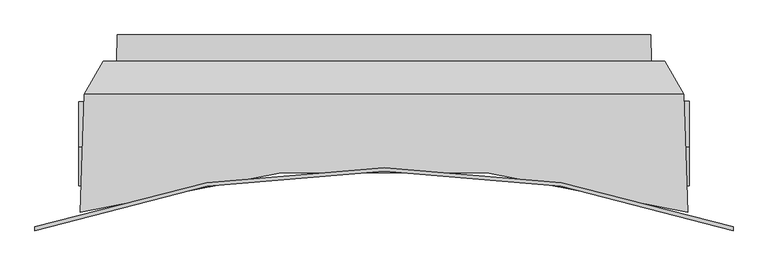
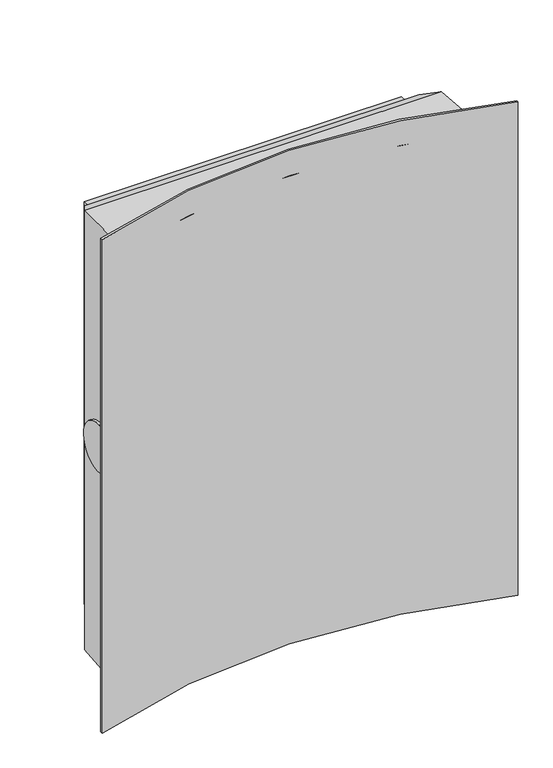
"""IFC4 building model written with IfcOpenShell, lengths in millimetres: proxy geometry, SU.900x1200ManwayRiserAdapter.3500."""

from ifc_helpers import new_model, si_unit, frame, origin, place, context, project, spatial, polyline, circle_curve, ellipse_curve, source, transform, mapped, element, save
from ifc_brep_helpers import plane_surface, cylinder_surface, revolved_surface, advanced_brep


def generic_models_27e32457(model_context):
    return source(origin(), model_context, "Body", "AdvancedBrep", [
        advanced_brep(
        [(498.8644366, -174.4226099, -69.7774514), (506.0, -174.4226099, -69.7774514), (506.0, -185.5773901, 69.7774514), (499.2539702, -185.5773901, 69.7774514), (-506.0, -174.4226099, -69.7774514), (-498.8644366, -174.4226099, -69.7774514), (-499.2539702, -185.5773901, 69.7774514), (-506.0, -185.5773901, 69.7774514), (-496.206021, -98.2955463, -646.206021), (-503.0285785, -293.6680303, -653.0285785), (-503.0285785, -293.6680303, 653.0285785), (-496.206021, -98.2955463, 646.206021), (-496.6147495, -110.0, 0.0), (503.0285785, -293.6680303, -653.0285785), (496.206021, -98.2955463, -646.206021), (496.206021, -98.2955463, 646.206021), (503.0285785, -293.6680303, 653.0285785), (496.6147495, -110.0, 0.0), (578.2496957, -318.1087275, -725.0), (-578.2496957, -318.1087275, -725.0), (-578.2496957, -318.1087275, 725.0), (578.2496957, -318.1087275, 725.0), (-464.8584727, -44.0, -614.8584727), (464.8584727, -44.0, -614.8584727), (464.8584727, -44.0, 614.8584727), (-464.8584727, -44.0, 614.8584727), (443.0401711, -44.0, -593.0401711), (443.0401711, -44.0, 593.0401711), (-443.0401711, -44.0, 593.0401711), (-443.0401711, -44.0, -593.0401711), (441.5036573, 0.0, 591.5036573), (441.5036573, 0.0, -591.5036573), (-441.5036573, 0.0, -591.5036573), (-441.5036573, 0.0, 591.5036573), (578.2496957, -324.4671382, -725.0), (578.2496957, -324.4671382, 725.0), (-578.2496957, -324.4671382, 725.0), (-578.2496957, -324.4671382, -725.0)],
        [
            (0, 1),
            (1, 2, circle_curve(frame((506.0, -180.0, 0.0), z_axis=(-1.0, 0.0, 0.0), x_axis=(0.0, 0.07967700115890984, -0.99682073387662)), 70.0)),
            (2, 3),
            (3, 0, ellipse_curve(frame((499.0592034, -180.0, 0.0), z_axis=(0.9993908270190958, 0.03489949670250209, 0.0), x_axis=(0.03489949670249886, -0.9993908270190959, 0.0)), 70.0426681, 70.0)),
            (4, 5),
            (5, 6, ellipse_curve(frame((-499.0592034, -180.0, 0.0), z_axis=(-0.9993908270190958, 0.03489949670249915, 0.0), x_axis=(0.03489949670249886, 0.9993908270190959, 0.0)), 70.0426681, 70.0)),
            (6, 7),
            (7, 4, circle_curve(frame((-506.0, -180.0, 0.0), z_axis=(1.0, 0.0, 0.0), x_axis=(0.0, 0.07967700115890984, -0.99682073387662)), 70.0)),
            (8, 9),
            (9, 10),
            (10, 11),
            (11, 8),
            (5, 12, ellipse_curve(frame((-499.0592034, -180.0, 0.0), z_axis=(0.9993908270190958, -0.03489949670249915, 0.0), x_axis=(0.03489949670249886, 0.9993908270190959, 0.0)), 70.0426681, 70.0)),
            (12, 6, ellipse_curve(frame((-499.0592034, -180.0, 0.0), z_axis=(0.9993908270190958, -0.03489949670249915, 0.0), x_axis=(0.03489949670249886, 0.9993908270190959, 0.0)), 70.0426681, 70.0)),
            (4, 7, circle_curve(frame((-506.0, -180.0, 0.0), z_axis=(1.0, 0.0, 0.0), x_axis=(0.0, 0.07967700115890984, -0.99682073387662)), 70.0)),
            (13, 14),
            (14, 15),
            (15, 16),
            (16, 13),
            (17, 0, ellipse_curve(frame((499.0592034, -180.0, 0.0), z_axis=(-0.9993908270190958, -0.03489949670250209, 0.0), x_axis=(0.03489949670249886, -0.9993908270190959, 0.0)), 70.0426681, 70.0)),
            (3, 17, ellipse_curve(frame((499.0592034, -180.0, 0.0), z_axis=(-0.9993908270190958, -0.03489949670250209, 0.0), x_axis=(0.03489949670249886, -0.9993908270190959, 0.0)), 70.0426681, 70.0)),
            (2, 1, circle_curve(frame((506.0, -180.0, 0.0), z_axis=(-1.0, 0.0, 0.0), x_axis=(0.0, 0.07967700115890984, -0.99682073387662)), 70.0)),
            (13, 9, ellipse_curve(frame((0.0, -1969.8130865, -711.5608536), z_axis=(0.0, -0.03489949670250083, 0.9993908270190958), x_axis=(0.0, 0.9993908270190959, 0.03489949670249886)), 1751.0667025, 1750.0)),
            (8, 14),
            (15, 11),
            (10, 16, ellipse_curve(frame((0.0, -1969.8130865, 711.5608536), z_axis=(0.0, -0.034899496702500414, -0.9993908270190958), x_axis=(0.0, -0.9993908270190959, 0.03489949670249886)), 1751.0667025, 1750.0)),
            (18, 19, circle_curve(frame((0.0, -1969.8130865, -725.0), z_axis=(0.0, 0.0, 1.0), x_axis=(0.3304283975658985, 0.9438310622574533, 0.0)), 1750.0)),
            (19, 20),
            (20, 21, circle_curve(frame((0.0, -1969.8130865, 725.0), z_axis=(0.0, 0.0, -1.0), x_axis=(0.3304283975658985, 0.9438310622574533, 0.0)), 1750.0)),
            (21, 18),
            (8, 22),
            (22, 23),
            (23, 14),
            (23, 24),
            (24, 15),
            (22, 25),
            (25, 24),
            (26, 27),
            (27, 28),
            (28, 29),
            (29, 26),
            (25, 11),
            (30, 31),
            (31, 32),
            (32, 33),
            (33, 30),
            (30, 27),
            (26, 31),
            (29, 32),
            (33, 28),
            (34, 35),
            (35, 36, circle_curve(frame((0.0, -1969.8130865, 725.0), z_axis=(0.0, 0.0, 1.0), x_axis=(-0.3315651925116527, -0.9434323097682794, 0.0)), 1744.0)),
            (36, 37),
            (37, 34, circle_curve(frame((0.0, -1969.8130865, -725.0), z_axis=(0.0, 0.0, -1.0), x_axis=(-0.3315651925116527, -0.9434323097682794, 0.0)), 1744.0)),
            (34, 18),
            (21, 35),
            (19, 37),
            (36, 20),
        ],
        [
            cylinder_surface(frame((0.0, -180.0, 0.0), z_axis=(1.0000000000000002, 0.0, 0.0), x_axis=(0.0, 0.07967700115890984, -0.99682073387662)), 70.0),
            plane_surface(frame((-496.206021, -98.2955463, -541.5), z_axis=(-0.9993908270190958, 0.03489949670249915, 0.0), x_axis=(-0.03489949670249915, -0.9993908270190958, 0.0))),
            plane_surface(frame((496.206021, -98.2955463, 541.5), z_axis=(0.9993908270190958, 0.03489949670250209, 0.0), x_axis=(0.03489949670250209, -0.9993908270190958, 0.0))),
            plane_surface(frame((506.0, -205.0, 0.0), z_axis=(1.0, 0.0, 0.0), x_axis=(0.0, 0.0, -1.0))),
            plane_surface(frame((-506.0, -205.0, 0.0), z_axis=(-1.0, 0.0, 0.0), x_axis=(0.0, 0.0, -1.0))),
            plane_surface(frame((391.5, -98.2955463, -646.206021), z_axis=(0.0, 0.03489949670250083, -0.9993908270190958), x_axis=(0.0, -0.9993908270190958, -0.03489949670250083))),
            plane_surface(frame((-391.5, -98.2955463, 646.206021), z_axis=(0.0, 0.034899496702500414, 0.9993908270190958), x_axis=(0.0, -0.9993908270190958, 0.034899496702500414))),
            cylinder_surface(frame((0.0, -1969.8130865, 0.0), z_axis=(0.0, 0.0, 1.0000000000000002), x_axis=(0.3304283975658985, 0.9438310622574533, 0.0)), 1750.0),
            plane_surface(frame((391.5, -44.0, -614.8584727), z_axis=(0.0, 0.49999999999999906, -0.8660254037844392), x_axis=(0.0, -0.8660254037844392, -0.49999999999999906))),
            plane_surface(frame((464.8584727, -44.0, 541.5), z_axis=(0.8660254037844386, 0.5000000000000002, 0.0), x_axis=(0.5000000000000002, -0.8660254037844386, 0.0))),
            plane_surface(frame((391.5, -44.0, -593.0401711), z_axis=(0.0, 1.0, 0.0), x_axis=(0.0, 0.0, -1.0))),
            plane_surface(frame((-391.5, -44.0, 614.8584727), z_axis=(0.0, 0.4999999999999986, 0.8660254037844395), x_axis=(0.0, -0.8660254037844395, 0.4999999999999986))),
            plane_surface(frame((-464.8584727, -44.0, -541.5), z_axis=(-0.86602540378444, 0.49999999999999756, 0.0), x_axis=(-0.49999999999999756, -0.86602540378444, 0.0))),
            plane_surface(frame((391.5, 0.0, -585.5), z_axis=(0.0, 1.0, 0.0), x_axis=(0.0, 0.0, -1.0))),
            plane_surface(frame((441.5036573, 0.0, 541.5), z_axis=(0.999390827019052, 0.03489949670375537, 0.0), x_axis=(0.03489949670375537, -0.999390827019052, 0.0))),
            plane_surface(frame((391.5, 0.0, -591.5036573), z_axis=(0.0, 0.03489949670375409, -0.999390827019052), x_axis=(0.0, -0.999390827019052, -0.03489949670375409))),
            plane_surface(frame((-391.5, 0.0, 591.5036573), z_axis=(0.0, 0.034899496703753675, 0.999390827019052), x_axis=(0.0, -0.999390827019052, 0.034899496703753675))),
            plane_surface(frame((-441.5036573, 0.0, -541.5), z_axis=(-0.9993908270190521, 0.03489949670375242, 0.0), x_axis=(-0.03489949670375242, -0.9993908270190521, 0.0))),
            revolved_surface(polyline([(-578.2496957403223, -3615.1590347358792, 725.0), (-578.2496957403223, -3615.1590347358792, -725.0)]), (0.0, -1969.8130865, 0.0), (0.0, 0.0, 1.0)),
            plane_surface(frame((578.2496957, -324.4671382, 0.0), z_axis=(1.0, 0.0, 0.0), x_axis=(0.0, 1.0, 0.0))),
            plane_surface(frame((-578.2496957, -318.1087275, 0.0), z_axis=(-1.0, 0.0, 0.0), x_axis=(0.0, -1.0, 0.0))),
            plane_surface(frame((0.0, -272.1401123, 725.0), z_axis=(0.0, 0.0, 1.0), x_axis=(1.0, 0.0, 0.0))),
            plane_surface(frame((0.0, -272.1401123, -725.0), z_axis=(0.0, 0.0, -1.0), x_axis=(1.0, 0.0, 0.0))),
        ],
        [
            (0, [[1, 2, 3, 4]]),
            (0, [[5, 6, 7, 8]]),
            (1, [[9, 10, 11, 12], [13, 14, -6]]),
            (0, [[-5, 15, -7, -14, -13]]),
            (2, [[16, 17, 18, 19], [20, -4, 21]]),
            (0, [[-1, -20, -21, -3, 22]]),
            (3, [[-2, -22]]),
            (4, [[-15, -8]]),
            (5, [[-16, 23, -9, 24]]),
            (6, [[-18, 25, -11, 26]]),
            (7, [[27, 28, 29, 30], [-23, -19, -26, -10]]),
            (8, [[-24, 31, 32, 33]]),
            (9, [[-17, -33, 34, 35]]),
            (10, [[-32, 36, 37, -34], [38, 39, 40, 41]]),
            (11, [[-25, -35, -37, 42]]),
            (12, [[-12, -42, -36, -31]]),
            (13, [[43, 44, 45, 46]]),
            (14, [[-43, 47, -38, 48]]),
            (15, [[-48, -41, 49, -44]]),
            (16, [[-46, 50, -39, -47]]),
            (17, [[-45, -49, -40, -50]]),
            (18, [[51, 52, 53, 54]]),
            (19, [[-51, 55, -30, 56]]),
            (20, [[-28, 57, -53, 58]]),
            (21, [[-56, -29, -58, -52]]),
            (22, [[-57, -27, -55, -54]]),
        ],
    ),
    ])


if __name__ == "__main__":
    model = new_model("IFC4")
    model_context = context("Model", 3, world=origin())
    ifc_project = project(units=[si_unit("LENGTHUNIT", "METRE", prefix="MILLI")], contexts=[model_context])
    site = spatial("IfcSite", under=ifc_project)
    building = spatial("IfcBuilding", under=site)
    placement = place(None, origin())
    generic_models_shape = generic_models_27e32457(model_context)
    element("IfcBuildingElementProxy", 1, Name="SU.900x1200ManwayRiserAdapter.3500", ObjectType="SU.900x1200ManwayRiserAdapter.3500", at=placement, inside=building, context=model_context, shape_type="MappedRepresentation", body=[
        mapped(generic_models_shape, transform((0.0, 0.0, 0.0), x_axis=(1.0, 0.0, 0.0), y_axis=(0.0, 1.0, 0.0), z_axis=(0.0, 0.0, 1.0))),
    ])
    save(model, "model.ifc")
